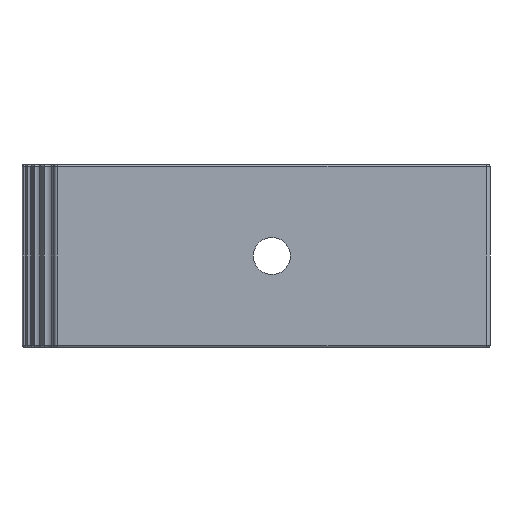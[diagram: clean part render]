
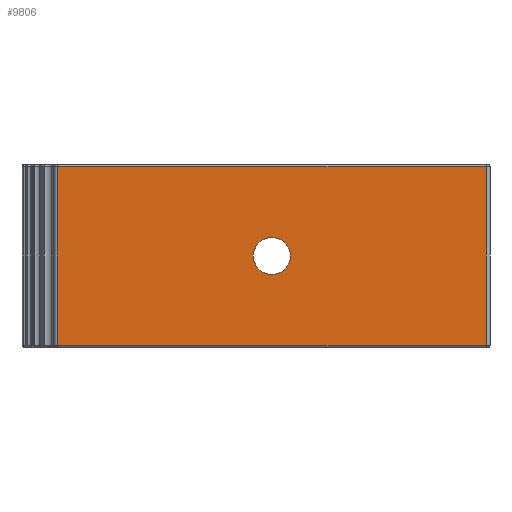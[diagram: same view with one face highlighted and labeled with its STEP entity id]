
A CAD part, left-side view. The second image highlights one B-rep face of the part: STEP entity #9806.
In plain terms, the highlighted planar face has unit normal (-1, 0, 0).
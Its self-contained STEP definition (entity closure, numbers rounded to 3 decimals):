
#1293=DIRECTION('',(0.,-1.,0.));
#1294=VECTOR('',#1293,114.764);
#1295=CARTESIAN_POINT('',(-98.242,-27.003,-23.942));
#1296=LINE('',#1295,#1294);
#3472=DIRECTION('',(0.,0.,1.));
#3473=VECTOR('',#3472,47.884);
#3474=CARTESIAN_POINT('',(-98.242,-141.768,-23.942));
#3475=LINE('',#3474,#3473);
#3486=CARTESIAN_POINT('',(-98.242,-84.386,0.));
#3487=DIRECTION('',(-1.,0.,0.));
#3488=DIRECTION('',(0.,1.,0.));
#3489=AXIS2_PLACEMENT_3D('',#3486,#3487,#3488);
#3494=CARTESIAN_POINT('',(-98.242,-84.386,0.));
#3495=DIRECTION('',(-1.,0.,0.));
#3496=DIRECTION('',(0.,0.,-1.));
#3497=AXIS2_PLACEMENT_3D('',#3494,#3495,#3496);
#3502=CARTESIAN_POINT('',(-98.242,-84.386,0.));
#3503=DIRECTION('',(-1.,0.,0.));
#3504=DIRECTION('',(0.,-1.,0.));
#3505=AXIS2_PLACEMENT_3D('',#3502,#3503,#3504);
#3517=DIRECTION('',(0.,0.,-1.));
#3518=VECTOR('',#3517,47.884);
#3519=CARTESIAN_POINT('',(-98.242,-27.003,23.942));
#3520=LINE('',#3519,#3518);
#5014=DIRECTION('',(0.,1.,0.));
#5015=VECTOR('',#5014,114.764);
#5016=CARTESIAN_POINT('',(-98.242,-141.768,23.942));
#5017=LINE('',#5016,#5015);
#6908=CARTESIAN_POINT('',(-98.242,-141.768,-23.942));
#6909=VERTEX_POINT('',#6908);
#6910=CARTESIAN_POINT('',(-98.242,-27.003,-23.942));
#6911=VERTEX_POINT('',#6910);
#7274=CARTESIAN_POINT('',(-98.242,-141.768,23.942));
#7275=VERTEX_POINT('',#7274);
#7276=CARTESIAN_POINT('',(-98.242,-27.003,23.942));
#7277=VERTEX_POINT('',#7276);
#7278=CARTESIAN_POINT('',(-98.242,-79.439,0.));
#7279=CARTESIAN_POINT('',(-98.242,-84.386,-4.947));
#7280=VERTEX_POINT('',#7278);
#7281=VERTEX_POINT('',#7279);
#7282=CARTESIAN_POINT('',(-98.242,-89.332,0.));
#7283=VERTEX_POINT('',#7282);
#9785=CARTESIAN_POINT('',(-98.242,-142.757,-24.437));
#9786=DIRECTION('',(1.,0.,0.));
#9787=DIRECTION('',(0.,0.,-1.));
#9788=AXIS2_PLACEMENT_3D('',#9785,#9786,#9787);
#9789=PLANE('',#9788);
#9791=ORIENTED_EDGE('',*,*,#9790,.F.);
#9793=ORIENTED_EDGE('',*,*,#9792,.F.);
#9794=ORIENTED_EDGE('',*,*,#9776,.F.);
#9795=ORIENTED_EDGE('',*,*,#8293,.F.);
#9796=EDGE_LOOP('',(#9791,#9793,#9794,#9795));
#9797=FACE_OUTER_BOUND('',#9796,.F.);
#9799=ORIENTED_EDGE('',*,*,#9798,.T.);
#9801=ORIENTED_EDGE('',*,*,#9800,.T.);
#9803=ORIENTED_EDGE('',*,*,#9802,.T.);
#9804=EDGE_LOOP('',(#9799,#9801,#9803));
#9805=FACE_BOUND('',#9804,.F.);
#3490=CIRCLE('',#3489,4.947);
#3498=CIRCLE('',#3497,4.947);
#3506=CIRCLE('',#3505,4.947);
#8293=EDGE_CURVE('',#6911,#6909,#1296,.T.);
#9776=EDGE_CURVE('',#6909,#7275,#3475,.T.);
#9790=EDGE_CURVE('',#7277,#6911,#3520,.T.);
#9792=EDGE_CURVE('',#7275,#7277,#5017,.T.);
#9798=EDGE_CURVE('',#7280,#7281,#3490,.T.);
#9800=EDGE_CURVE('',#7281,#7283,#3498,.T.);
#9802=EDGE_CURVE('',#7283,#7280,#3506,.T.);
#9806=ADVANCED_FACE('',(#9797,#9805),#9789,.F.);
